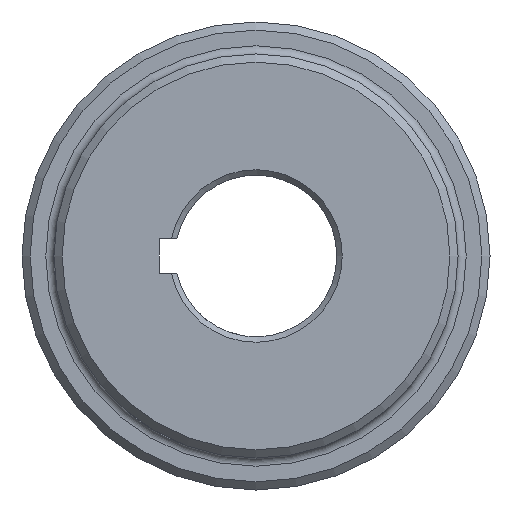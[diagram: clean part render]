
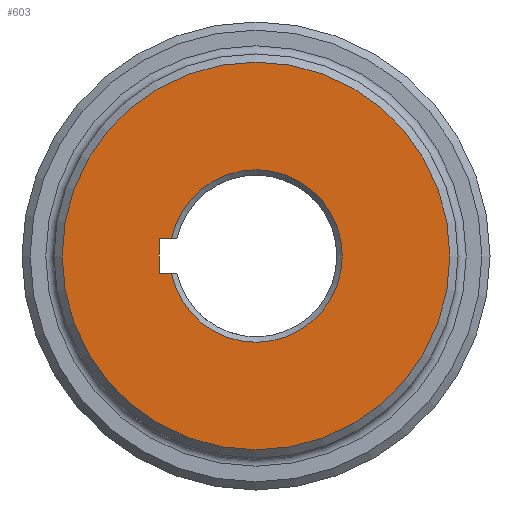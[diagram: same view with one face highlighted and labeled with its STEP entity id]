
A CAD part, left-side view. The second image highlights one B-rep face of the part: STEP entity #603.
In plain terms, the highlighted planar face has unit normal (-1, 0, 0).
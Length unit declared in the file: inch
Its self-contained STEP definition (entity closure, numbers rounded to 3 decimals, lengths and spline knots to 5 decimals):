
#18 = VERTEX_POINT ( 'NONE', #1031 ) ;
#123 = AXIS2_PLACEMENT_3D ( 'NONE', #1172, #469, #542 ) ;
#142 = CARTESIAN_POINT ( 'NONE',  ( 0., 0.711, -0.125 ) ) ;
#160 = CARTESIAN_POINT ( 'NONE',  ( 0., 0.62156, 0.125 ) ) ;
#268 = EDGE_CURVE ( 'NONE', #1272, #981, #510, .T. ) ;
#398 = CIRCLE ( 'NONE', #123, 1.425 ) ;
#422 = VECTOR ( 'NONE', #1357, 39.37008 ) ;
#427 = CARTESIAN_POINT ( 'NONE',  ( 0., 0.711, -0.125 ) ) ;
#449 = LINE ( 'NONE', #1830, #1935 ) ;
#469 = DIRECTION ( 'NONE',  ( -1., 0., 0. ) ) ;
#510 = CIRCLE ( 'NONE', #797, 0.634 ) ;
#542 = DIRECTION ( 'NONE',  ( 0., 0., -1. ) ) ;
#553 = DIRECTION ( 'NONE',  ( 1., 0., 0. ) ) ;
#603 = ADVANCED_FACE ( 'NONE', ( #1730, #1162 ), #873, .F. ) ;
#622 = EDGE_CURVE ( 'NONE', #18, #2119, #1800, .T. ) ;
#718 = CARTESIAN_POINT ( 'NONE',  ( 0., 0., 0.125 ) ) ;
#748 = ORIENTED_EDGE ( 'NONE', *, *, #1262, .F. ) ;
#797 = AXIS2_PLACEMENT_3D ( 'NONE', #1144, #553, #1458 ) ;
#826 = EDGE_CURVE ( 'NONE', #1448, #1448, #398, .T. ) ;
#833 = ORIENTED_EDGE ( 'NONE', *, *, #2242, .F. ) ;
#873 = PLANE ( 'NONE',  #1035 ) ;
#946 = VECTOR ( 'NONE', #2165, 39.37008 ) ;
#981 = VERTEX_POINT ( 'NONE', #2081 ) ;
#1014 = ORIENTED_EDGE ( 'NONE', *, *, #622, .F. ) ;
#1031 = CARTESIAN_POINT ( 'NONE',  ( 0., 0.711, 0.125 ) ) ;
#1035 = AXIS2_PLACEMENT_3D ( 'NONE', #1911, #1835, #1946 ) ;
#1057 = CARTESIAN_POINT ( 'NONE',  ( 0., 0., -1.425 ) ) ;
#1144 = CARTESIAN_POINT ( 'NONE',  ( 0., 0., 0. ) ) ;
#1162 = FACE_BOUND ( 'NONE', #1778, .T. ) ;
#1170 = EDGE_LOOP ( 'NONE', ( #1780 ) ) ;
#1172 = CARTESIAN_POINT ( 'NONE',  ( 0., 0., 0. ) ) ;
#1262 = EDGE_CURVE ( 'NONE', #2119, #981, #449, .T. ) ;
#1272 = VERTEX_POINT ( 'NONE', #160 ) ;
#1357 = DIRECTION ( 'NONE',  ( 0., 1., 0. ) ) ;
#1448 = VERTEX_POINT ( 'NONE', #1057 ) ;
#1458 = DIRECTION ( 'NONE',  ( 0., 0., -1. ) ) ;
#1698 = LINE ( 'NONE', #718, #422 ) ;
#1730 = FACE_OUTER_BOUND ( 'NONE', #1170, .T. ) ;
#1778 = EDGE_LOOP ( 'NONE', ( #833, #1841, #748, #1014 ) ) ;
#1780 = ORIENTED_EDGE ( 'NONE', *, *, #826, .T. ) ;
#1800 = LINE ( 'NONE', #427, #946 ) ;
#1830 = CARTESIAN_POINT ( 'NONE',  ( 0., 0., -0.125 ) ) ;
#1835 = DIRECTION ( 'NONE',  ( 1., 0., 0. ) ) ;
#1841 = ORIENTED_EDGE ( 'NONE', *, *, #268, .T. ) ;
#1911 = CARTESIAN_POINT ( 'NONE',  ( 0., 0., 0. ) ) ;
#1935 = VECTOR ( 'NONE', #2051, 39.37008 ) ;
#1946 = DIRECTION ( 'NONE',  ( 0., 0., -1. ) ) ;
#2051 = DIRECTION ( 'NONE',  ( 0., -1., 0. ) ) ;
#2081 = CARTESIAN_POINT ( 'NONE',  ( 0., 0.62156, -0.125 ) ) ;
#2119 = VERTEX_POINT ( 'NONE', #142 ) ;
#2165 = DIRECTION ( 'NONE',  ( 0., 0., -1. ) ) ;
#2242 = EDGE_CURVE ( 'NONE', #1272, #18, #1698, .T. ) ;
